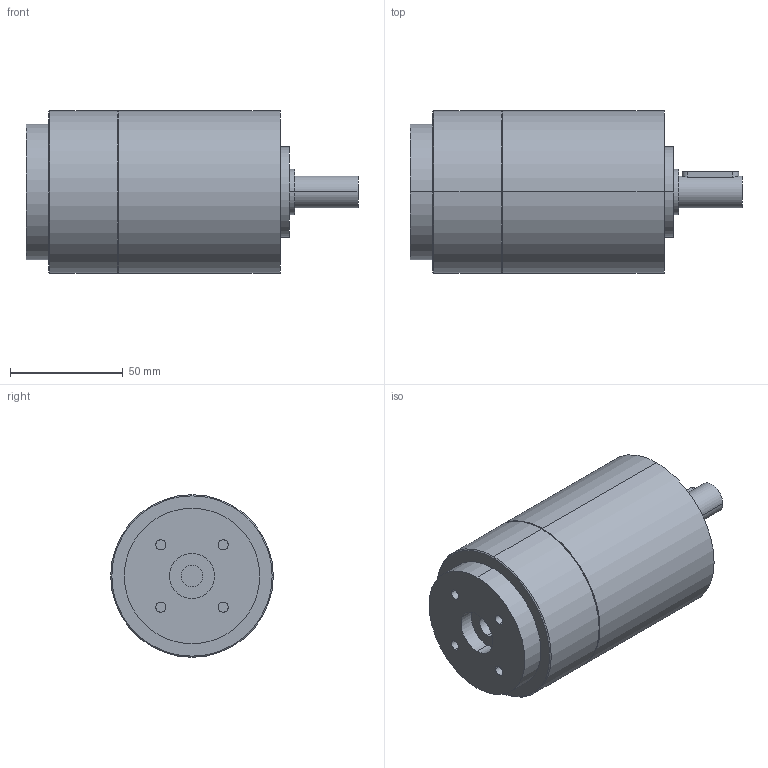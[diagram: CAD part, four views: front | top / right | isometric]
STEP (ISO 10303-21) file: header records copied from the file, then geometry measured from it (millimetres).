
FILE_DESCRIPTION(('CoCreate Modeling STEP Export'),'2;1');
FILE_NAME('GPT75_ig-9-12-16-20-25-28-35-40-50-70-100_14_B14T_9.52_P14.stp','2014-08-27T13:24:51',(''),(''),'CoCreate Modeling STEP processor for AP214 (Solid Model)','CoCreate Modeling 16.00C 25-Feb-2009 (C) Parametric Technology GmbH','');
FILE_SCHEMA(('AUTOMOTIVE_DESIGN { 1 0 10303 214 1 1 1 1 }'));
Length unit declared in the file: millimetre
Products named in the file (2): GPT75_ig-9-12-16-20-25-28-35-40-50-70-100_14_B14T_9.52_P14
Assembly tree (1 placements, depth 2):
  GPT75_ig-9-12-16-20-25-28-35-40-50-70-100_14_B14T_9.52_P14
    GPT75_ig-9-12-16-20-25-28-35-40-50-70-100_14_B14T_9.52_P14
Bounding box: 147 x 72 x 72 mm (x, y, z)
Volume: 449949.1 mm3; surface area: 38074.3 mm2
Topology: 1 solids, 1 shells, 61 faces, 137 edges, 94 vertices
Faces by surface type: cylinder 36, plane 21, cone 4
Entity records: 1823 total; most frequent: CARTESIAN_POINT 606, ORIENTED_EDGE 274, DIRECTION 202, EDGE_CURVE 137, VERTEX_POINT 94, AXIS2_PLACEMENT_3D 78, EDGE_LOOP 77, FACE_OUTER_BOUND 61
